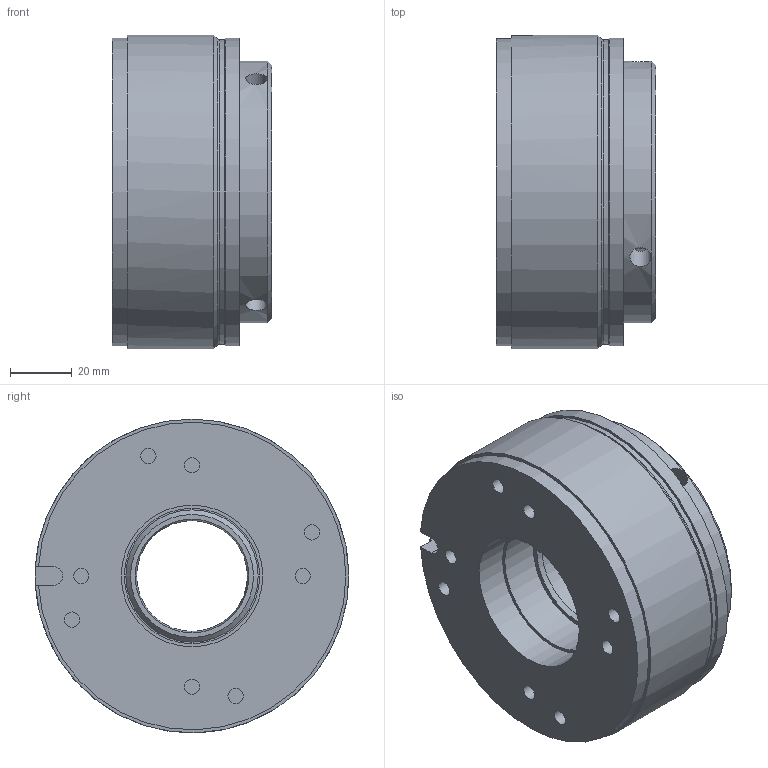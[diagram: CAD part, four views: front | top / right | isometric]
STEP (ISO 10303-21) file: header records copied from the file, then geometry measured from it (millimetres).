
FILE_DESCRIPTION (( 'STEP AP203' ), '1' );
FILE_NAME ('86_61110K00-0001_Idx_A.STEP', '2025-02-14T09:24:30', ( '' ), ( '' ), 'SwSTEP 2.0', 'SolidWorks 2022', '' );
FILE_SCHEMA (( 'CONFIG_CONTROL_DESIGN' ));
Length unit declared in the file: millimetre
Products named in the file (1): 86_61110K00-0001_Idx_A
Bounding box: 52 x 102 x 102 mm (x, y, z)
Volume: 317453.7 mm3; surface area: 55350.4 mm2
Topology: 2 solids, 2 shells, 54 faces, 104 edges, 66 vertices
Faces by surface type: cylinder 25, plane 23, cone 5, torus 1
Full cylindrical faces by diameter (mm): 5 x11, 7 x3, 36 x1, 43 x1, 44 x1, 46 x1, 78.3 x1, 85 x1, 99 x1, 100 x1, 102 x1
Entity records: 1651 total; most frequent: CARTESIAN_POINT 564, DIRECTION 226, ORIENTED_EDGE 140, AXIS2_PLACEMENT_3D 107, EDGE_LOOP 105, FACE_OUTER_BOUND 78, EDGE_CURVE 70, VERTEX_POINT 61
